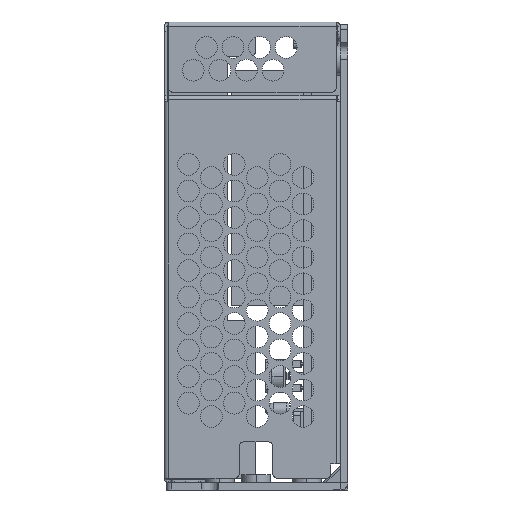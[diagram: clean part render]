
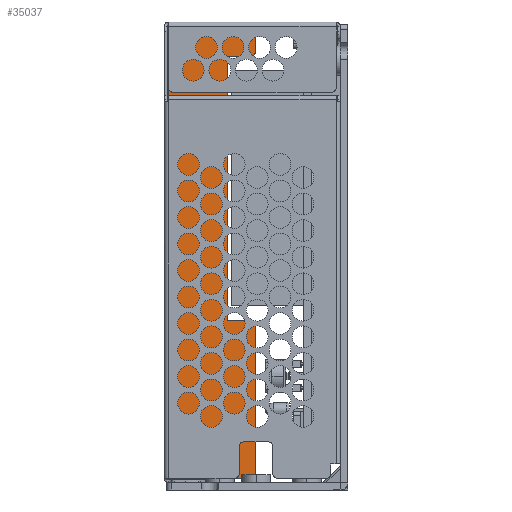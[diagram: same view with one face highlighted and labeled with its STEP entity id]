
A CAD part, left-side view. The second image highlights one B-rep face of the part: STEP entity #35037.
In plain terms, the highlighted planar face has unit normal (-1, 0, 0) as drawn and (0, 1, 0) by its records, which use the part's own axes.
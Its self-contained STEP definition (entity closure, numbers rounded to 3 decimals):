
#15854=DIRECTION('',(1.,0.,0.));
#15855=VECTOR('',#15854,93.7);
#15856=CARTESIAN_POINT('',(0.3,0.,0.9));
#15857=LINE('',#15856,#15855);
#15953=DIRECTION('',(-0.001,0.,1.));
#15954=VECTOR('',#15953,0.129);
#15955=CARTESIAN_POINT('',(94.,0.,
0.9));
#15956=LINE('',#15955,#15954);
#15957=DIRECTION('',(-0.001,0.,1.));
#15958=VECTOR('',#15957,16.872);
#15959=CARTESIAN_POINT('',(93.999,0.,
1.029));
#15960=LINE('',#15959,#15958);
#15961=CARTESIAN_POINT('',(92.989,0.,17.9));
#15962=DIRECTION('',(0.,1.,0.));
#15963=DIRECTION('',(0.,0.,1.));
#15964=AXIS2_PLACEMENT_3D('',#15961,#15962,#15963);
#15966=DIRECTION('',(-1.,0.,0.));
#15967=VECTOR('',#15966,4.189);
#15968=CARTESIAN_POINT('',(92.989,0.,18.9));
#15969=LINE('',#15968,#15967);
#15970=CARTESIAN_POINT('',(88.8,0.,17.9));
#15971=DIRECTION('',(0.,1.,0.));
#15972=DIRECTION('',(-1.,0.,0.));
#15973=AXIS2_PLACEMENT_3D('',#15970,#15971,#15972);
#15975=DIRECTION('',(0.,0.,-1.));
#15976=VECTOR('',#15975,4.9);
#15977=CARTESIAN_POINT('',(87.8,0.,17.9));
#15978=LINE('',#15977,#15976);
#15979=DIRECTION('',(-1.,0.,0.));
#15980=VECTOR('',#15979,54.8);
#15981=CARTESIAN_POINT('',(87.8,0.,13.));
#15982=LINE('',#15981,#15980);
#15983=DIRECTION('',(0.,0.,1.));
#15984=VECTOR('',#15983,4.9);
#15985=CARTESIAN_POINT('',(33.,0.,13.));
#15986=LINE('',#15985,#15984);
#15987=CARTESIAN_POINT('',(32.,0.,17.9));
#15988=DIRECTION('',(0.,1.,0.));
#15989=DIRECTION('',(0.,0.,1.));
#15990=AXIS2_PLACEMENT_3D('',#15987,#15988,#15989);
#15992=DIRECTION('',(-1.,0.,0.));
#15993=VECTOR('',#15992,30.7);
#15994=CARTESIAN_POINT('',(32.,0.,18.9));
#15995=LINE('',#15994,#15993);
#15996=CARTESIAN_POINT('',(1.3,0.,17.9));
#15997=DIRECTION('',(0.,1.,0.));
#15998=DIRECTION('',(-1.,0.,0.));
#15999=AXIS2_PLACEMENT_3D('',#15996,#15997,#15998);
#16001=DIRECTION('',(0.,0.,-1.));
#16002=VECTOR('',#16001,17.);
#16003=CARTESIAN_POINT('',(0.3,0.,17.9));
#16004=LINE('',#16003,#16002);
#18709=CARTESIAN_POINT('',(87.8,0.,13.));
#18710=CARTESIAN_POINT('',(33.,0.,13.));
#18711=VERTEX_POINT('',#18709);
#18712=VERTEX_POINT('',#18710);
#19809=CARTESIAN_POINT('',(94.,0.,
0.9));
#19810=CARTESIAN_POINT('',(93.999,0.,
1.029));
#19811=VERTEX_POINT('',#19809);
#19812=VERTEX_POINT('',#19810);
#19937=CARTESIAN_POINT('',(0.3,0.,17.9));
#19938=VERTEX_POINT('',#19937);
#19939=CARTESIAN_POINT('',(1.3,0.,18.9));
#19940=VERTEX_POINT('',#19939);
#19941=CARTESIAN_POINT('',(32.,0.,18.9));
#19942=CARTESIAN_POINT('',(33.,0.,17.9));
#19943=VERTEX_POINT('',#19941);
#19944=VERTEX_POINT('',#19942);
#19949=CARTESIAN_POINT('',(87.8,0.,17.9));
#19950=CARTESIAN_POINT('',(88.8,0.,18.9));
#19951=VERTEX_POINT('',#19949);
#19952=VERTEX_POINT('',#19950);
#19961=CARTESIAN_POINT('',(92.989,0.,18.9));
#19962=VERTEX_POINT('',#19961);
#19963=CARTESIAN_POINT('',(93.989,0.,
17.901));
#19964=VERTEX_POINT('',#19963);
#19967=CARTESIAN_POINT('',(0.3,0.,0.9));
#19968=VERTEX_POINT('',#19967);
#35010=CARTESIAN_POINT('',(71.666,0.,0.6));
#35011=DIRECTION('',(0.,-1.,0.));
#35012=DIRECTION('',(-1.,0.,0.));
#35013=AXIS2_PLACEMENT_3D('',#35010,#35011,#35012);
#35014=PLANE('',#35013);
#35015=ORIENTED_EDGE('',*,*,#34948,.T.);
#35016=ORIENTED_EDGE('',*,*,#34963,.T.);
#35017=ORIENTED_EDGE('',*,*,#34976,.F.);
#35018=ORIENTED_EDGE('',*,*,#34989,.T.);
#35019=ORIENTED_EDGE('',*,*,#35001,.F.);
#35021=ORIENTED_EDGE('',*,*,#35020,.T.);
#35023=ORIENTED_EDGE('',*,*,#35022,.T.);
#35025=ORIENTED_EDGE('',*,*,#35024,.T.);
#35027=ORIENTED_EDGE('',*,*,#35026,.F.);
#35029=ORIENTED_EDGE('',*,*,#35028,.T.);
#35031=ORIENTED_EDGE('',*,*,#35030,.F.);
#35033=ORIENTED_EDGE('',*,*,#35032,.T.);
#35034=ORIENTED_EDGE('',*,*,#34873,.T.);
#35035=EDGE_LOOP('',(#35015,#35016,#35017,#35018,#35019,#35021,#35023,#35025,
#35027,#35029,#35031,#35033,#35034));
#35036=FACE_OUTER_BOUND('',#35035,.F.);
#35037=ADVANCED_FACE('',(#35036),#35014,.F.);
#15965=CIRCLE('',#15964,1.);
#15974=CIRCLE('',#15973,1.);
#15991=CIRCLE('',#15990,1.);
#16000=CIRCLE('',#15999,1.);
#34873=EDGE_CURVE('',#19968,#19811,#15857,.T.);
#34948=EDGE_CURVE('',#19811,#19812,#15956,.T.);
#34963=EDGE_CURVE('',#19812,#19964,#15960,.T.);
#34976=EDGE_CURVE('',#19962,#19964,#15965,.T.);
#34989=EDGE_CURVE('',#19962,#19952,#15969,.T.);
#35001=EDGE_CURVE('',#19951,#19952,#15974,.T.);
#35020=EDGE_CURVE('',#19951,#18711,#15978,.T.);
#35022=EDGE_CURVE('',#18711,#18712,#15982,.T.);
#35024=EDGE_CURVE('',#18712,#19944,#15986,.T.);
#35026=EDGE_CURVE('',#19943,#19944,#15991,.T.);
#35028=EDGE_CURVE('',#19943,#19940,#15995,.T.);
#35030=EDGE_CURVE('',#19938,#19940,#16000,.T.);
#35032=EDGE_CURVE('',#19938,#19968,#16004,.T.);
